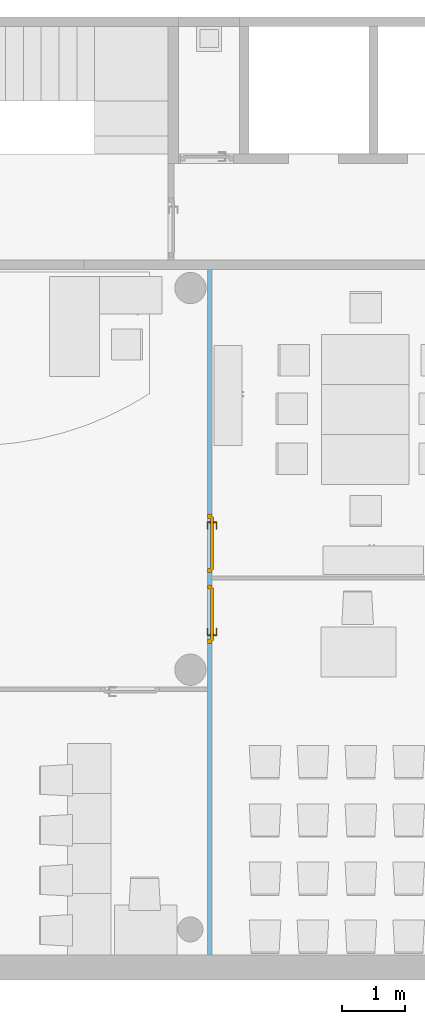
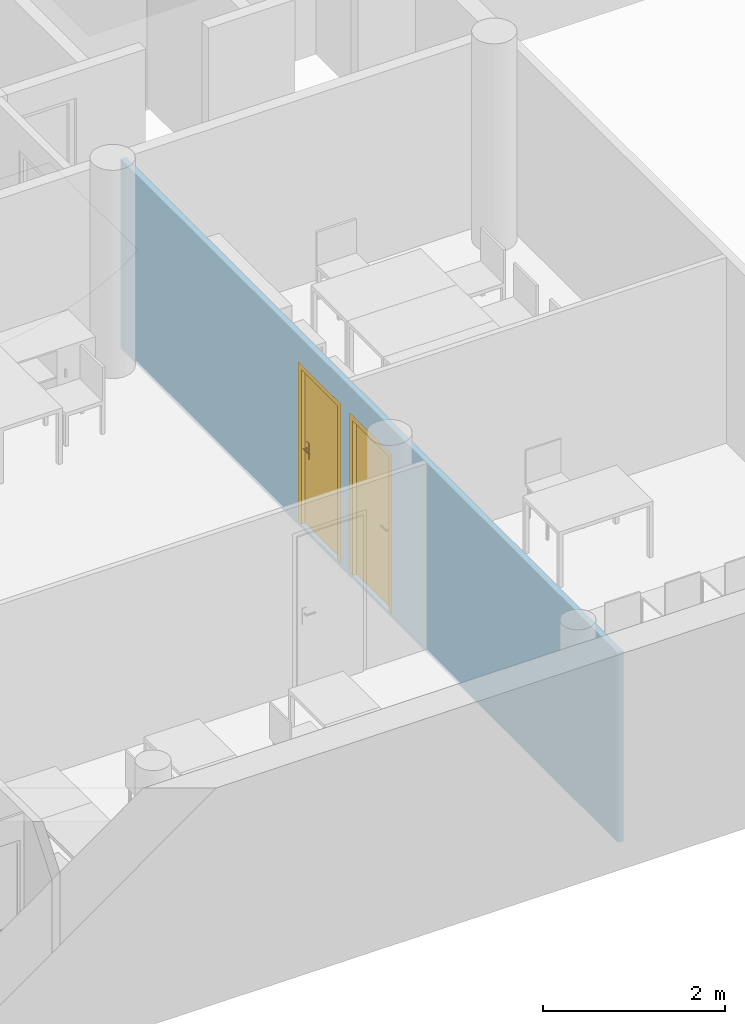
"""IFC4 building model written with IfcOpenShell, lengths in metres."""

import ifcopenshell
import ifcopenshell.guid

model = None  # the IFC model being written
_history = None  # IfcOwnerHistory: only IFC2X3 demands one
_inside = {}  # id of a spatial element -> (the spatial element, [elements in it])
_under = {}  # id of a project, library or spatial element -> (it, [spatial elements below it])
_declared = {}  # id of a project -> (the project, [libraries it declares])
_typed = {}  # id of a type object -> (the type object, [elements of that type])
_made_of = {}  # id of a material, layer set ... -> (it, [elements and type objects made of it])


def new_model(schema):
    """Start an empty IFC model of exactly this schema.

    Asked for "IFC4X3", IfcOpenShell would pick the latest addendum, in which some entities
    have other attributes; the version numbers below select the first issue.
    IFC2X3 requires an IfcOwnerHistory on every rooted entity: one is made here for all.
    """
    global model, _history
    if schema == "IFC4X3":
        model = ifcopenshell.file(schema_version=(4, 3, 0, 0))
    else:
        model = ifcopenshell.file(schema=schema)
    _inside.clear()
    _under.clear()
    _declared.clear()
    _typed.clear()
    _made_of.clear()
    _history = None
    if model.schema == "IFC2X3":
        org = make("IfcOrganization", Name="unknown")
        user = make(
            "IfcPersonAndOrganization",
            ThePerson=make("IfcPerson", FamilyName="unknown"),
            TheOrganization=org,
        )
        app = make(
            "IfcApplication",
            ApplicationDeveloper=org,
            Version="unknown",
            ApplicationFullName="unknown",
            ApplicationIdentifier="unknown",
        )
        _history = make(
            "IfcOwnerHistory",
            OwningUser=user,
            OwningApplication=app,
            ChangeAction="ADDED",
            CreationDate=0,
        )
    return model


def make(cls, **values):
    """One entity of the class cls with the attributes given. An attribute that is None is left unset."""
    return model.create_entity(
        cls, **{name: value for name, value in values.items() if value is not None}
    )


def entity(cls, *values):
    """Any entity or typed value of the class cls, its attributes in the order of the schema. None: left unset."""
    e = model.create_entity(cls)
    for i, value in enumerate(values):
        if value is not None:
            e[i] = value
    return e


def rooted(cls, **values):
    """An entity with a GlobalId (a new one), such as an element, a storey or a relation."""
    return make(cls, GlobalId=ifcopenshell.guid.new(), OwnerHistory=_history, **values)


def si_unit(unit_type, name, prefix=None):
    """IfcSIUnit, for example si_unit("LENGTHUNIT", "METRE", prefix="MILLI")."""
    return make("IfcSIUnit", UnitType=unit_type, Prefix=prefix, Name=name)


def converted_unit(unit_type, name, factor, base, dimensions=None, offset=None):
    """IfcConversionBasedUnit, such as the inch: factor (a typed value) times the base unit."""
    return make(
        "IfcConversionBasedUnit"
        if offset is None
        else "IfcConversionBasedUnitWithOffset",
        ConversionOffset=offset,
        Dimensions=None
        if dimensions is None
        else entity("IfcDimensionalExponents", *dimensions),
        UnitType=unit_type,
        Name=name,
        ConversionFactor=make(
            "IfcMeasureWithUnit", ValueComponent=factor, UnitComponent=base
        ),
    )


def derived_unit(unit_type, elements):
    """IfcDerivedUnit: a product of units, each with its exponent."""
    return make(
        "IfcDerivedUnit",
        Elements=[
            make("IfcDerivedUnitElement", Unit=unit, Exponent=power)
            for unit, power in elements
        ],
        UnitType=unit_type,
    )


def assignment(units):
    """IfcUnitAssignment: the units of a project."""
    return None if units is None else make("IfcUnitAssignment", Units=units)


def point(xyz):
    """IfcCartesianPoint."""
    return None if xyz is None else make("IfcCartesianPoint", Coordinates=xyz)


def direction(xyz):
    """IfcDirection."""
    return None if xyz is None else make("IfcDirection", DirectionRatios=xyz)


def frame(location, z_axis=None, x_axis=None):
    """IfcAxis2Placement3D, a coordinate frame: its origin and axes. An axis left out is left unset."""
    return make(
        "IfcAxis2Placement3D",
        Location=point(location),
        Axis=direction(z_axis),
        RefDirection=direction(x_axis),
    )


def frame_2d(location, x_axis=None):
    """IfcAxis2Placement2D, a coordinate frame in the plane: its origin and x axis."""
    return make(
        "IfcAxis2Placement2D", Location=point(location), RefDirection=direction(x_axis)
    )


def origin():
    """The frame at (0, 0, 0) with its axes left unset."""
    return frame((0.0, 0.0, 0.0))


def origin_with_axes():
    """The frame at (0, 0, 0) with the z axis (0, 0, 1) and the x axis (1, 0, 0) written out."""
    return frame((0.0, 0.0, 0.0), z_axis=(0.0, 0.0, 1.0), x_axis=(1.0, 0.0, 0.0))


def place(relative_to, where):
    """IfcLocalPlacement: puts the frame where relative to a parent placement (None: the world)."""
    return make(
        "IfcLocalPlacement", PlacementRelTo=relative_to, RelativePlacement=where
    )


def context(
    kind, dimensions, precision=None, world=None, true_north=None, identifier=None
):
    """IfcGeometricRepresentationContext, for example the 3D "Model" context."""
    return make(
        "IfcGeometricRepresentationContext",
        ContextIdentifier=identifier,
        ContextType=kind,
        CoordinateSpaceDimension=dimensions,
        Precision=precision,
        WorldCoordinateSystem=world,
        TrueNorth=true_north,
    )


def subcontext(parent, identifier, kind, view, scale=None):
    """IfcGeometricRepresentationSubContext, for example "Body" below "Model"."""
    return make(
        "IfcGeometricRepresentationSubContext",
        ContextIdentifier=identifier,
        ContextType=kind,
        ParentContext=parent,
        TargetScale=scale,
        TargetView=view,
    )


def project(units=None, contexts=None):
    """IfcProject with its units and contexts."""
    return rooted(
        "IfcProject",
        Name="project",
        RepresentationContexts=contexts,
        UnitsInContext=assignment(units),
    )


def spatial(cls, under=None, at=None, **own):
    """A site, building, storey or space (cls), placed at a placement, below another one or the project."""
    s = rooted(cls, ObjectPlacement=at, **own)
    if under is not None:
        _under.setdefault(under.id(), (under, []))[1].append(s)
    return s


def polyline(points):
    """IfcPolyline through the points."""
    return make("IfcPolyline", Points=[point(p) for p in points])


def profile(cls, at=None, kind="AREA", **sizes):
    """A parametric profile (cls). Its sizes go by their IFC names, for example OverallWidth=200.0."""
    return make(cls, ProfileType=kind, Position=at, **sizes)


def rectangle(**sizes):
    """IfcRectangleProfileDef."""
    return profile("IfcRectangleProfileDef", **sizes)


def outline(outer, holes=None, kind="AREA"):
    """IfcArbitraryClosedProfileDef: a profile drawn as a closed curve; with holes, ...WithVoids."""
    if holes is None:
        return make("IfcArbitraryClosedProfileDef", ProfileType=kind, OuterCurve=outer)
    return make(
        "IfcArbitraryProfileDefWithVoids",
        ProfileType=kind,
        OuterCurve=outer,
        InnerCurves=holes,
    )


def extrude(swept, where, along, depth):
    """IfcExtrudedAreaSolid: the profile swept, set in the frame where, extruded along a direction by depth."""
    return make(
        "IfcExtrudedAreaSolid",
        SweptArea=swept,
        Position=where,
        ExtrudedDirection=direction(along),
        Depth=depth,
    )


def faces_of(points, faces, orient=None, outer=None):
    """IfcFace entities. A face is a list of loops; a loop is a list of indices into points, from 0.

    orient and outer hold one flag for each loop. By default every Orientation is true, the
    first loop of a face is its IfcFaceOuterBound and the others are IfcFaceBound.
    """
    made = []
    for i, loops in enumerate(faces):
        bounds = []
        for j, loop in enumerate(loops):
            is_outer = j == 0 if outer is None else outer[i][j]
            bounds.append(
                make(
                    "IfcFaceOuterBound" if is_outer else "IfcFaceBound",
                    Bound=make("IfcPolyLoop", Polygon=[points[k] for k in loop]),
                    Orientation=True if orient is None else orient[i][j],
                )
            )
        made.append(make("IfcFace", Bounds=bounds))
    return made


def faceted_brep(points, faces, orient=None, outer=None, voids=None):
    """IfcFacetedBrep: a solid bounded by flat faces; with voids (closed shells), ...WithVoids."""
    shared = [point(p) for p in points]
    hull = make("IfcClosedShell", CfsFaces=faces_of(shared, faces, orient, outer))
    if voids is None:
        return make("IfcFacetedBrep", Outer=hull)
    return make(
        "IfcFacetedBrepWithVoids",
        Outer=hull,
        Voids=[
            make(cls, CfsFaces=faces_of(shared, fs, o, b)) for cls, fs, o, b in voids
        ],
    )


def shape(context_of_items, identifier, shape_type, items):
    """IfcShapeRepresentation: the items that make up one representation, for example the "Body"."""
    return make(
        "IfcShapeRepresentation",
        ContextOfItems=context_of_items,
        RepresentationIdentifier=identifier,
        RepresentationType=shape_type,
        Items=items,
    )


def source(mapping_origin, context_of_items, identifier, shape_type, items):
    """IfcRepresentationMap: a shape defined once, which mapped items show again and again."""
    return make(
        "IfcRepresentationMap",
        MappingOrigin=mapping_origin,
        MappedRepresentation=shape(context_of_items, identifier, shape_type, items),
    )


def transform(
    local_origin,
    x_axis=None,
    y_axis=None,
    z_axis=None,
    scale=None,
    scale2=None,
    scale3=None,
    uniform=True,
):
    """IfcCartesianTransformationOperator3D, or its non-uniform kind. x_axis, y_axis, z_axis: its Axis1, 2, 3."""
    if uniform:
        return make(
            "IfcCartesianTransformationOperator3D",
            Axis1=direction(x_axis),
            Axis2=direction(y_axis),
            LocalOrigin=point(local_origin),
            Scale=scale,
            Axis3=direction(z_axis),
        )
    return make(
        "IfcCartesianTransformationOperator3DnonUniform",
        Axis1=direction(x_axis),
        Axis2=direction(y_axis),
        LocalOrigin=point(local_origin),
        Scale=scale,
        Axis3=direction(z_axis),
        Scale2=scale2,
        Scale3=scale3,
    )


def mapped(mapping_source, mapping_target):
    """IfcMappedItem: shows the shape of a source again, moved by a transform."""
    return make(
        "IfcMappedItem", MappingSource=mapping_source, MappingTarget=mapping_target
    )


def material(Name=None, Category=None):
    """IfcMaterial."""
    return make("IfcMaterial", Name=Name, Category=Category)


def layer(
    of_material, thickness, ventilated=None, Name=None, Category=None, Priority=None
):
    """IfcMaterialLayer: one layer of a wall or slab, of a material (None: an air gap)."""
    return make(
        "IfcMaterialLayer",
        Material=of_material,
        LayerThickness=thickness,
        IsVentilated=ventilated,
        Name=Name,
        Category=Category,
        Priority=Priority,
    )


def layer_set(layers, Name=None):
    """IfcMaterialLayerSet."""
    return make("IfcMaterialLayerSet", MaterialLayers=layers, LayerSetName=Name)


def layer_usage(for_layer_set, set_direction, sense, offset, extent=None):
    """IfcMaterialLayerSetUsage: how a layer set lies in its element."""
    return make(
        "IfcMaterialLayerSetUsage",
        ForLayerSet=for_layer_set,
        LayerSetDirection=set_direction,
        DirectionSense=sense,
        OffsetFromReferenceLine=offset,
        ReferenceExtent=extent,
    )


def made_of(thing, what):
    """Note that an element or type object is made of a material, layer set ...; save() writes the relation."""
    if what is not None:
        _made_of.setdefault(what.id(), (what, []))[1].append(thing)
    return thing


def element(
    cls,
    number,
    at=None,
    inside=None,
    cuts=None,
    type_object=None,
    material=None,
    context=None,
    identifier="Body",
    shape_type=None,
    held_by="IfcProductDefinitionShape",
    body=None,
    shapes=None,
    **own,
):
    """One element of the class cls, such as IfcWall. Its Tag is "e" and its number.

    at: its placement. inside: the storey or other place that contains it. cuts: it is an
    opening in that element (IfcRelVoidsElement). A single representation is given by context,
    identifier, shape_type and body (its items); several are given by shapes. held_by: the class
    of the entity that holds the representations. save() writes the other relations.
    """
    e = rooted(cls, Tag="e%d" % number, ObjectPlacement=at, **own)
    if body is not None:
        shapes = [shape(context, identifier, shape_type, body)]
    if shapes is not None:
        e.Representation = make(held_by, Representations=shapes)
    if inside is not None:
        _inside.setdefault(inside.id(), (inside, []))[1].append(e)
    if cuts is not None:
        rooted(
            "IfcRelVoidsElement", RelatingBuildingElement=cuts, RelatedOpeningElement=e
        )
    if type_object is not None:
        _typed.setdefault(type_object.id(), (type_object, []))[1].append(e)
    return made_of(e, material)


def fill(opening, filler):
    """IfcRelFillsElement: the door or window that sits in an opening."""
    return rooted(
        "IfcRelFillsElement",
        RelatingOpeningElement=opening,
        RelatedBuildingElement=filler,
    )


def aggregate(whole, parts):
    """IfcRelAggregates: a whole, such as a stair, and the parts it consists of."""
    return rooted("IfcRelAggregates", RelatingObject=whole, RelatedObjects=parts)


def save(model, path):
    """Write the relations noted so far, then the file.

    IfcRelAggregates (storeys below a building ...), IfcRelContainedInSpatialStructure (elements
    in a storey), IfcRelDefinesByType, IfcRelAssociatesMaterial and IfcRelDeclares: one each for
    every whole, place, type object, material and project.
    """
    for whole, parts in _under.values():
        aggregate(whole, parts)
    for where, things in _inside.values():
        rooted(
            "IfcRelContainedInSpatialStructure",
            RelatedElements=things,
            RelatingStructure=where,
        )
    for kind, things in _typed.values():
        rooted("IfcRelDefinesByType", RelatedObjects=things, RelatingType=kind)
    for what, things in _made_of.values():
        rooted("IfcRelAssociatesMaterial", RelatedObjects=things, RelatingMaterial=what)
    for by, libraries in _declared.values():
        rooted("IfcRelDeclares", RelatingContext=by, RelatedDefinitions=libraries)
    model.write(path)


model = new_model("IFC4")

# Units and contexts
model_context = context("Model", 3, precision=1e-05, world=origin())
body_context = subcontext(model_context, "Body", "Model", "MODEL_VIEW")
ifc_project = project(units=[si_unit("LENGTHUNIT", "METRE"), si_unit("AREAUNIT", "SQUARE_METRE"), si_unit("VOLUMEUNIT", "CUBIC_METRE"), si_unit("MASSUNIT", "GRAM", prefix="KILO"), converted_unit("PLANEANGLEUNIT", "DEGREE", entity("IfcPlaneAngleMeasure", 0.0174532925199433), si_unit("PLANEANGLEUNIT", "RADIAN"), dimensions=[0, 0, 0, 0, 0, 0, 0]), derived_unit("THERMALTRANSMITTANCEUNIT", [(si_unit("POWERUNIT", "WATT"), 1), (si_unit("THERMODYNAMICTEMPERATUREUNIT", "KELVIN"), -1), (si_unit("LENGTHUNIT", "METRE"), -2)]), derived_unit("VOLUMETRICFLOWRATEUNIT", [(si_unit("LENGTHUNIT", "METRE"), 3), (converted_unit("TIMEUNIT", "hour", entity("IfcTimeMeasure", 3600.0), si_unit("TIMEUNIT", "SECOND"), dimensions=[0, 0, 1, 0, 0, 0, 0]), -1), (si_unit("LENGTHUNIT", "METRE"), -1)])], contexts=[model_context])

# Building, storeys
building_placement = place(None, origin())
building = spatial("IfcBuilding", under=ifc_project, at=building_placement, Name="HABITATGE PLURIFAMILIAR", CompositionType="ELEMENT")
storey_1_placement = place(building_placement, frame((0.0, 0.0, 3.35)))
storey_1 = spatial("IfcBuildingStorey", under=building, at=storey_1_placement, Name="PLANTA  ALTELL", CompositionType="ELEMENT", Elevation=3.35)
storey_2_placement = place(storey_1_placement, origin())
storey_2 = spatial("IfcBuildingStorey", under=storey_1, at=storey_2_placement, Name="NOU", CompositionType="PARTIAL")

# Wall, openings, doors
ifc_material = material()
ifc_layer = layer(ifc_material, 0.07)
ifc_layer_set = layer_set([ifc_layer])
ifc_layer_usage = layer_usage(ifc_layer_set, "AXIS2", "POSITIVE", 0.0)
wall_placement = place(storey_2_placement, frame((416.412010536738, 24.1995914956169, -0.05), z_axis=(0.0, 0.0, 1.0), x_axis=(0.0, -1.0, 0.0)))
wall = element("IfcWall", 1, at=wall_placement, inside=storey_2, material=ifc_layer_usage, Name="Evans PA", context=body_context, shape_type="SweptSolid", body=[
    extrude(rectangle(XDim=10.9591798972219, YDim=0.07, at=frame_2d((5.47958994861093, 0.035), x_axis=(1.0, 0.0))), origin_with_axes(), (0.0, 0.0, 1.0), 2.55),
])
opening_1_placement = place(wall_placement, frame((3.91007402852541, 0.0, 0.05), z_axis=(0.0, 1.0, 0.0), x_axis=(0.0, 0.0, 1.0)))
opening_1 = element("IfcOpeningElement", 2, at=opening_1_placement, cuts=wall, Name="Vano de puerta PA", ObjectType="Opening", context=body_context, shape_type="SweptSolid", body=[
    extrude(outline(polyline([(2.15, 0.94), (2.15, 0.0), (0.0, 0.0), (0.0, 0.94), (2.15, 0.94)])), origin_with_axes(), (0.0, 0.0, 1.0), 0.07),
])
opening_2_placement = place(wall_placement, frame((5.04258139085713, 0.0, 0.05), z_axis=(0.0, 1.0, 0.0), x_axis=(0.0, 0.0, 1.0)))
opening_2 = element("IfcOpeningElement", 3, at=opening_2_placement, cuts=wall, Name="Vano de puerta PA", ObjectType="Opening", context=body_context, shape_type="SweptSolid", body=[
    extrude(outline(polyline([(2.15, 0.94), (2.15, 0.0), (0.0, 0.0), (0.0, 0.94), (2.15, 0.94)])), origin_with_axes(), (0.0, 0.0, 1.0), 0.07),
])
shared_shape_1 = source(origin_with_axes(), body_context, "Body", "Brep", [
    faceted_brep([(0.0, 0.0699999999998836, 2.15), (0.0, 0.0699999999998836, 0.0), (0.0700000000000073, 0.0699999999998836, 0.0), (0.0700000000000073, 0.0699999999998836, 2.15), (0.0, 0.0, 0.0), (0.0, 0.0, 2.15), (0.0700000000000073, 0.0, 2.15), (0.0700000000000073, 0.0, 0.0)], [[[0, 1, 2, 3]], [[4, 5, 6, 7]], [[1, 0, 5, 4]], [[2, 1, 4, 7]], [[3, 2, 7, 6]], [[0, 3, 6, 5]]], orient=[[False], [False], [False], [False], [False], [False]]),
    faceted_brep([(0.870000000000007, 0.0699999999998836, 2.15), (0.870000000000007, 0.0699999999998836, 0.0), (0.940000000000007, 0.0699999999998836, 0.0), (0.940000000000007, 0.0699999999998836, 2.15), (0.870000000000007, 0.0, 0.0), (0.870000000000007, 0.0, 2.15), (0.940000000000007, 0.0, 2.15), (0.940000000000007, 0.0, 0.0)], [[[0, 1, 2, 3]], [[4, 5, 6, 7]], [[1, 0, 5, 4]], [[2, 1, 4, 7]], [[3, 2, 7, 6]], [[0, 3, 6, 5]]], orient=[[False], [False], [False], [False], [False], [False]]),
    faceted_brep([(0.0700000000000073, 0.0699999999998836, 2.15), (0.0700000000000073, 0.0699999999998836, 2.08), (0.870000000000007, 0.0699999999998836, 2.08), (0.870000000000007, 0.0699999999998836, 2.15), (0.0700000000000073, 0.0, 2.08), (0.0700000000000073, 0.0, 2.15), (0.870000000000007, 0.0, 2.15), (0.870000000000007, 0.0, 2.08)], [[[0, 1, 2, 3]], [[4, 5, 6, 7]], [[1, 0, 5, 4]], [[2, 1, 4, 7]], [[3, 2, 7, 6]], [[0, 3, 6, 5]]], orient=[[False], [False], [False], [False], [False], [False]]),
    faceted_brep([(0.0500000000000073, 0.0899999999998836, 2.1), (0.0500000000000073, 0.0899999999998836, 0.0), (0.890000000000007, 0.0899999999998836, 0.0), (0.890000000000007, 0.0899999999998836, 2.1), (0.0500000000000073, 0.0499999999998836, 0.0), (0.0500000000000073, 0.0499999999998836, 2.1), (0.890000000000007, 0.0499999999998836, 2.1), (0.890000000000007, 0.0499999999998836, 0.0)], [[[0, 1, 2, 3]], [[4, 5, 6, 7]], [[1, 0, 5, 4]], [[2, 1, 4, 7]], [[3, 2, 7, 6]], [[0, 3, 6, 5]]], orient=[[False], [False], [False], [False], [False], [False]]),
    faceted_brep([(0.110000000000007, 0.0499999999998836, 1.125), (0.110000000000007, 0.0499999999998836, 0.91), (0.160000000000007, 0.0499999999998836, 0.91), (0.160000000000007, 0.0499999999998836, 1.125), (0.110000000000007, 0.0399999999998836, 0.91), (0.110000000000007, 0.0399999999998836, 1.125), (0.160000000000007, 0.0399999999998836, 1.125), (0.160000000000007, 0.0399999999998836, 0.91)], [[[0, 1, 2, 3]], [[4, 5, 6, 7]], [[1, 0, 5, 4]], [[2, 1, 4, 7]], [[3, 2, 7, 6]], [[0, 3, 6, 5]]], orient=[[False], [False], [False], [False], [False], [False]]),
    faceted_brep([(0.135000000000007, 0.0399999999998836, 1.06), (0.130000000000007, 0.0399999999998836, 1.05866025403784), (0.126339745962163, 0.0399999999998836, 1.055), (0.125000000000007, 0.0399999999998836, 1.05), (0.126339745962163, 0.0399999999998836, 1.045), (0.130000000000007, 0.0399999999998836, 1.04133974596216), (0.135000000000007, 0.0399999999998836, 1.04), (0.140000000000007, 0.0399999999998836, 1.04133974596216), (0.143660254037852, 0.0399999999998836, 1.045), (0.145000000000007, 0.0399999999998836, 1.05), (0.143660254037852, 0.0399999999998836, 1.055), (0.140000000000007, 0.0399999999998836, 1.05866025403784), (0.135000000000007, 0.0, 1.06), (0.130000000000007, -0.00500000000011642, 1.05866025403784), (0.126339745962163, -0.00866025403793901, 1.055), (0.125000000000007, -0.0100000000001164, 1.05), (0.126339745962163, -0.00866025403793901, 1.045), (0.130000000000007, -0.00500000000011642, 1.04133974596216), (0.135000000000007, 0.0, 1.04), (0.140000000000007, 0.00499999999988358, 1.04133974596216), (0.143660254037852, 0.00866025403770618, 1.045), (0.145000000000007, 0.00999999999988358, 1.05), (0.143660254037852, 0.00866025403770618, 1.055), (0.140000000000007, 0.00499999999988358, 1.05866025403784), (0.250000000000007, 0.0, 1.06), (0.250000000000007, 0.00499999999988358, 1.05866025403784), (0.250000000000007, 0.00866025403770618, 1.055), (0.250000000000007, 0.00999999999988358, 1.05), (0.250000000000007, 0.00866025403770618, 1.045), (0.250000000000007, 0.00499999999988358, 1.04133974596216), (0.250000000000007, 0.0, 1.04), (0.250000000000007, -0.00500000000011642, 1.04133974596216), (0.250000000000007, -0.00866025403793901, 1.045), (0.250000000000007, -0.0100000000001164, 1.05), (0.250000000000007, -0.00866025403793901, 1.055), (0.250000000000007, -0.00500000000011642, 1.05866025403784)], [[[0, 1, 2, 3, 4, 5, 6, 7, 8, 9, 10, 11]], [[0, 12, 13, 1]], [[1, 13, 14, 2]], [[2, 14, 15, 3]], [[3, 15, 16, 4]], [[4, 16, 17, 5]], [[5, 17, 18, 6]], [[6, 18, 19, 7]], [[7, 19, 20, 8]], [[8, 20, 21, 9]], [[9, 21, 22, 10]], [[10, 22, 23, 11]], [[11, 23, 12, 0]], [[24, 25, 26, 27, 28, 29, 30, 31, 32, 33, 34, 35]], [[12, 24, 35, 13]], [[13, 35, 34, 14]], [[14, 34, 33, 15]], [[15, 33, 32, 16]], [[16, 32, 31, 17]], [[17, 31, 30, 18]], [[18, 30, 29, 19]], [[19, 29, 28, 20]], [[20, 28, 27, 21]], [[21, 27, 26, 22]], [[22, 26, 25, 23]], [[23, 25, 24, 12]]], orient=[[False], [False], [False], [False], [False], [False], [False], [False], [False], [False], [False], [False], [False], [False], [False], [False], [False], [False], [False], [False], [False], [False], [False], [False], [False], [False]]),
    faceted_brep([(0.110000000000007, 0.0899999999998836, 1.125), (0.160000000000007, 0.0899999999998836, 1.125), (0.160000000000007, 0.0899999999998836, 0.91), (0.110000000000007, 0.0899999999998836, 0.91), (0.110000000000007, 0.0999999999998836, 0.91), (0.160000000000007, 0.0999999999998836, 0.91), (0.160000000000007, 0.0999999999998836, 1.125), (0.110000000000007, 0.0999999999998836, 1.125)], [[[0, 1, 2, 3]], [[4, 5, 6, 7]], [[3, 4, 7, 0]], [[2, 5, 4, 3]], [[1, 6, 5, 2]], [[0, 7, 6, 1]]], orient=[[False], [False], [False], [False], [False], [False]]),
    faceted_brep([(0.135000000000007, 0.0999999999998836, 1.06), (0.140000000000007, 0.0999999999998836, 1.05866025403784), (0.143660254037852, 0.0999999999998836, 1.055), (0.145000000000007, 0.0999999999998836, 1.05), (0.143660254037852, 0.0999999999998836, 1.045), (0.140000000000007, 0.0999999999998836, 1.04133974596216), (0.135000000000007, 0.0999999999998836, 1.04), (0.130000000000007, 0.0999999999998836, 1.04133974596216), (0.126339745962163, 0.0999999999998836, 1.045), (0.125000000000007, 0.0999999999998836, 1.05), (0.126339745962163, 0.0999999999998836, 1.055), (0.130000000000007, 0.0999999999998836, 1.05866025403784), (0.130000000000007, 0.144999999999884, 1.05866025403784), (0.135000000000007, 0.139999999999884, 1.06), (0.126339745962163, 0.148660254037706, 1.055), (0.125000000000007, 0.149999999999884, 1.05), (0.126339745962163, 0.148660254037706, 1.045), (0.130000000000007, 0.144999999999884, 1.04133974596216), (0.135000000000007, 0.139999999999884, 1.04), (0.140000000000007, 0.134999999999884, 1.04133974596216), (0.143660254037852, 0.131339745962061, 1.045), (0.145000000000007, 0.129999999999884, 1.05), (0.143660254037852, 0.131339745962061, 1.055), (0.140000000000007, 0.134999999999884, 1.05866025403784), (0.250000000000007, 0.139999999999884, 1.06), (0.250000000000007, 0.144999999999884, 1.05866025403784), (0.250000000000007, 0.148660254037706, 1.055), (0.250000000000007, 0.149999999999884, 1.05), (0.250000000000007, 0.148660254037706, 1.045), (0.250000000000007, 0.144999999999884, 1.04133974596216), (0.250000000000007, 0.139999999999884, 1.04), (0.250000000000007, 0.134999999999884, 1.04133974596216), (0.250000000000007, 0.131339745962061, 1.045), (0.250000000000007, 0.129999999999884, 1.05), (0.250000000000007, 0.131339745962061, 1.055), (0.250000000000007, 0.134999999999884, 1.05866025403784)], [[[0, 1, 2, 3, 4, 5, 6, 7, 8, 9, 10, 11]], [[0, 11, 12, 13]], [[11, 10, 14, 12]], [[10, 9, 15, 14]], [[9, 8, 16, 15]], [[8, 7, 17, 16]], [[7, 6, 18, 17]], [[6, 5, 19, 18]], [[5, 4, 20, 19]], [[4, 3, 21, 20]], [[3, 2, 22, 21]], [[2, 1, 23, 22]], [[1, 0, 13, 23]], [[24, 25, 26, 27, 28, 29, 30, 31, 32, 33, 34, 35]], [[13, 12, 25, 24]], [[12, 14, 26, 25]], [[14, 15, 27, 26]], [[15, 16, 28, 27]], [[16, 17, 29, 28]], [[17, 18, 30, 29]], [[18, 19, 31, 30]], [[19, 20, 32, 31]], [[20, 21, 33, 32]], [[21, 22, 34, 33]], [[22, 23, 35, 34]], [[23, 13, 24, 35]]], orient=[[False], [False], [False], [False], [False], [False], [False], [False], [False], [False], [False], [False], [False], [False], [False], [False], [False], [False], [False], [False], [False], [False], [False], [False], [False], [False]]),
])
door_1_placement = place(opening_1_placement, frame((0.0, 0.0, 0.0), z_axis=(1.0, 0.0, 0.0), x_axis=(0.0, 1.0, 0.0)))
door_1 = element("IfcDoor", 4, at=door_1_placement, inside=storey_2, Name="Porta PA", OperationType="USERDEFINED", OverallHeight=2.15, OverallWidth=0.94, PredefinedType="DOOR", context=body_context, shape_type="MappedRepresentation", body=[
    mapped(shared_shape_1, transform((0.0, 0.0, 0.0), x_axis=(1.0, 0.0, 0.0), y_axis=(0.0, 1.0, 0.0), z_axis=(0.0, 0.0, 1.0), scale=1.0)),
])
fill(opening_1, door_1)
shared_shape_2 = source(origin_with_axes(), body_context, "Body", "Brep", [
    faceted_brep([(0.940000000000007, 0.0699999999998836, 2.15), (0.870000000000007, 0.0699999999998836, 2.15), (0.870000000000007, 0.0699999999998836, 0.0), (0.940000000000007, 0.0699999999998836, 0.0), (0.940000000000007, 0.0, 0.0), (0.870000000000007, 0.0, 0.0), (0.870000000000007, 0.0, 2.15), (0.940000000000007, 0.0, 2.15)], [[[0, 1, 2, 3]], [[4, 5, 6, 7]], [[3, 4, 7, 0]], [[2, 5, 4, 3]], [[1, 6, 5, 2]], [[0, 7, 6, 1]]], orient=[[False], [False], [False], [False], [False], [False]]),
    faceted_brep([(0.0700000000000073, 0.0699999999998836, 2.15), (0.0, 0.0699999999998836, 2.15), (0.0, 0.0699999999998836, 0.0), (0.0700000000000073, 0.0699999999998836, 0.0), (0.0700000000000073, 0.0, 0.0), (0.0, 0.0, 0.0), (0.0, 0.0, 2.15), (0.0700000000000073, 0.0, 2.15)], [[[0, 1, 2, 3]], [[4, 5, 6, 7]], [[3, 4, 7, 0]], [[2, 5, 4, 3]], [[1, 6, 5, 2]], [[0, 7, 6, 1]]], orient=[[False], [False], [False], [False], [False], [False]]),
    faceted_brep([(0.870000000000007, 0.0699999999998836, 2.15), (0.0700000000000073, 0.0699999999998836, 2.15), (0.0700000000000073, 0.0699999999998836, 2.08), (0.870000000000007, 0.0699999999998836, 2.08), (0.870000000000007, 0.0, 2.08), (0.0700000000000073, 0.0, 2.08), (0.0700000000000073, 0.0, 2.15), (0.870000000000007, 0.0, 2.15)], [[[0, 1, 2, 3]], [[4, 5, 6, 7]], [[3, 4, 7, 0]], [[2, 5, 4, 3]], [[1, 6, 5, 2]], [[0, 7, 6, 1]]], orient=[[False], [False], [False], [False], [False], [False]]),
    faceted_brep([(0.890000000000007, 0.0899999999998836, 2.1), (0.0500000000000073, 0.0899999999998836, 2.1), (0.0500000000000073, 0.0899999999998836, 0.0), (0.890000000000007, 0.0899999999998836, 0.0), (0.890000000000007, 0.0499999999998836, 0.0), (0.0500000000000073, 0.0499999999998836, 0.0), (0.0500000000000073, 0.0499999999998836, 2.1), (0.890000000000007, 0.0499999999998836, 2.1)], [[[0, 1, 2, 3]], [[4, 5, 6, 7]], [[3, 4, 7, 0]], [[2, 5, 4, 3]], [[1, 6, 5, 2]], [[0, 7, 6, 1]]], orient=[[False], [False], [False], [False], [False], [False]]),
    faceted_brep([(0.830000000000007, 0.0499999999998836, 1.125), (0.780000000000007, 0.0499999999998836, 1.125), (0.780000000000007, 0.0499999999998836, 0.91), (0.830000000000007, 0.0499999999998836, 0.91), (0.830000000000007, 0.0399999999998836, 0.91), (0.780000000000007, 0.0399999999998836, 0.91), (0.780000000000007, 0.0399999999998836, 1.125), (0.830000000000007, 0.0399999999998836, 1.125)], [[[0, 1, 2, 3]], [[4, 5, 6, 7]], [[3, 4, 7, 0]], [[2, 5, 4, 3]], [[1, 6, 5, 2]], [[0, 7, 6, 1]]], orient=[[False], [False], [False], [False], [False], [False]]),
    faceted_brep([(0.805000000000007, 0.0399999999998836, 1.06), (0.800000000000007, 0.0399999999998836, 1.05866025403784), (0.796339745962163, 0.0399999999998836, 1.055), (0.795000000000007, 0.0399999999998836, 1.05), (0.796339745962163, 0.0399999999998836, 1.045), (0.800000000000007, 0.0399999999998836, 1.04133974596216), (0.805000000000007, 0.0399999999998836, 1.04), (0.810000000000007, 0.0399999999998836, 1.04133974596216), (0.813660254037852, 0.0399999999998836, 1.045), (0.815000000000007, 0.0399999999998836, 1.05), (0.813660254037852, 0.0399999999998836, 1.055), (0.810000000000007, 0.0399999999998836, 1.05866025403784), (0.810000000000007, -0.00500000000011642, 1.05866025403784), (0.805000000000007, 0.0, 1.06), (0.813660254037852, -0.00866025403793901, 1.055), (0.815000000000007, -0.0100000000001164, 1.05), (0.813660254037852, -0.00866025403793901, 1.045), (0.810000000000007, -0.00500000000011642, 1.04133974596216), (0.805000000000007, 0.0, 1.04), (0.800000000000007, 0.00499999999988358, 1.04133974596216), (0.796339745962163, 0.00866025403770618, 1.045), (0.795000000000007, 0.00999999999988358, 1.05), (0.796339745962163, 0.00866025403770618, 1.055), (0.800000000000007, 0.00499999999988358, 1.05866025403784), (0.690000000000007, 0.0, 1.06), (0.690000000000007, -0.00500000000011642, 1.05866025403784), (0.690000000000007, -0.00866025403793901, 1.055), (0.690000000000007, -0.0100000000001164, 1.05), (0.690000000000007, -0.00866025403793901, 1.045), (0.690000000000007, -0.00500000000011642, 1.04133974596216), (0.690000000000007, 0.0, 1.04), (0.690000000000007, 0.00499999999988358, 1.04133974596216), (0.690000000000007, 0.00866025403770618, 1.045), (0.690000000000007, 0.00999999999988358, 1.05), (0.690000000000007, 0.00866025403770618, 1.055), (0.690000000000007, 0.00499999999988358, 1.05866025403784)], [[[0, 1, 2, 3, 4, 5, 6, 7, 8, 9, 10, 11]], [[0, 11, 12, 13]], [[11, 10, 14, 12]], [[10, 9, 15, 14]], [[9, 8, 16, 15]], [[8, 7, 17, 16]], [[7, 6, 18, 17]], [[6, 5, 19, 18]], [[5, 4, 20, 19]], [[4, 3, 21, 20]], [[3, 2, 22, 21]], [[2, 1, 23, 22]], [[1, 0, 13, 23]], [[24, 25, 26, 27, 28, 29, 30, 31, 32, 33, 34, 35]], [[13, 12, 25, 24]], [[12, 14, 26, 25]], [[14, 15, 27, 26]], [[15, 16, 28, 27]], [[16, 17, 29, 28]], [[17, 18, 30, 29]], [[18, 19, 31, 30]], [[19, 20, 32, 31]], [[20, 21, 33, 32]], [[21, 22, 34, 33]], [[22, 23, 35, 34]], [[23, 13, 24, 35]]], orient=[[False], [False], [False], [False], [False], [False], [False], [False], [False], [False], [False], [False], [False], [False], [False], [False], [False], [False], [False], [False], [False], [False], [False], [False], [False], [False]]),
    faceted_brep([(0.830000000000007, 0.0899999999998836, 1.125), (0.830000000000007, 0.0899999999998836, 0.91), (0.780000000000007, 0.0899999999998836, 0.91), (0.780000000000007, 0.0899999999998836, 1.125), (0.830000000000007, 0.0999999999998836, 0.91), (0.830000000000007, 0.0999999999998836, 1.125), (0.780000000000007, 0.0999999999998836, 1.125), (0.780000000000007, 0.0999999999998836, 0.91)], [[[0, 1, 2, 3]], [[4, 5, 6, 7]], [[1, 0, 5, 4]], [[2, 1, 4, 7]], [[3, 2, 7, 6]], [[0, 3, 6, 5]]], orient=[[False], [False], [False], [False], [False], [False]]),
    faceted_brep([(0.805000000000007, 0.0999999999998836, 1.06), (0.810000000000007, 0.0999999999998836, 1.05866025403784), (0.813660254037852, 0.0999999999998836, 1.055), (0.815000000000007, 0.0999999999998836, 1.05), (0.813660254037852, 0.0999999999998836, 1.045), (0.810000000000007, 0.0999999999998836, 1.04133974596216), (0.805000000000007, 0.0999999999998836, 1.04), (0.800000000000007, 0.0999999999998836, 1.04133974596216), (0.796339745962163, 0.0999999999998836, 1.045), (0.795000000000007, 0.0999999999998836, 1.05), (0.796339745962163, 0.0999999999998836, 1.055), (0.800000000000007, 0.0999999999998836, 1.05866025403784), (0.805000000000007, 0.139999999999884, 1.06), (0.810000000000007, 0.144999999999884, 1.05866025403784), (0.813660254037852, 0.148660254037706, 1.055), (0.815000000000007, 0.149999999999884, 1.05), (0.813660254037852, 0.148660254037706, 1.045), (0.810000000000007, 0.144999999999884, 1.04133974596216), (0.805000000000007, 0.139999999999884, 1.04), (0.800000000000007, 0.134999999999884, 1.04133974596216), (0.796339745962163, 0.131339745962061, 1.045), (0.795000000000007, 0.129999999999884, 1.05), (0.796339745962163, 0.131339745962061, 1.055), (0.800000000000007, 0.134999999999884, 1.05866025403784), (0.690000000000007, 0.139999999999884, 1.06), (0.690000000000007, 0.134999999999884, 1.05866025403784), (0.690000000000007, 0.131339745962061, 1.055), (0.690000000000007, 0.129999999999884, 1.05), (0.690000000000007, 0.131339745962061, 1.045), (0.690000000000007, 0.134999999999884, 1.04133974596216), (0.690000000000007, 0.139999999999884, 1.04), (0.690000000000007, 0.144999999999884, 1.04133974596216), (0.690000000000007, 0.148660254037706, 1.045), (0.690000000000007, 0.149999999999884, 1.05), (0.690000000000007, 0.148660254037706, 1.055), (0.690000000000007, 0.144999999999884, 1.05866025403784)], [[[0, 1, 2, 3, 4, 5, 6, 7, 8, 9, 10, 11]], [[0, 12, 13, 1]], [[1, 13, 14, 2]], [[2, 14, 15, 3]], [[3, 15, 16, 4]], [[4, 16, 17, 5]], [[5, 17, 18, 6]], [[6, 18, 19, 7]], [[7, 19, 20, 8]], [[8, 20, 21, 9]], [[9, 21, 22, 10]], [[10, 22, 23, 11]], [[11, 23, 12, 0]], [[24, 25, 26, 27, 28, 29, 30, 31, 32, 33, 34, 35]], [[12, 24, 35, 13]], [[13, 35, 34, 14]], [[14, 34, 33, 15]], [[15, 33, 32, 16]], [[16, 32, 31, 17]], [[17, 31, 30, 18]], [[18, 30, 29, 19]], [[19, 29, 28, 20]], [[20, 28, 27, 21]], [[21, 27, 26, 22]], [[22, 26, 25, 23]], [[23, 25, 24, 12]]], orient=[[False], [False], [False], [False], [False], [False], [False], [False], [False], [False], [False], [False], [False], [False], [False], [False], [False], [False], [False], [False], [False], [False], [False], [False], [False], [False]]),
])
door_2_placement = place(opening_2_placement, frame((0.0, 0.0, 0.0), z_axis=(1.0, 0.0, 0.0), x_axis=(0.0, 1.0, 0.0)))
door_2 = element("IfcDoor", 5, at=door_2_placement, inside=storey_2, Name="Porta PA", OperationType="USERDEFINED", OverallHeight=2.15, OverallWidth=0.94, PredefinedType="DOOR", context=body_context, shape_type="MappedRepresentation", body=[
    mapped(shared_shape_2, transform((0.0, 0.0, 0.0), x_axis=(1.0, 0.0, 0.0), y_axis=(0.0, 1.0, 0.0), z_axis=(0.0, 0.0, 1.0), scale=1.0)),
])
fill(opening_2, door_2)

save(model, "model.ifc")
